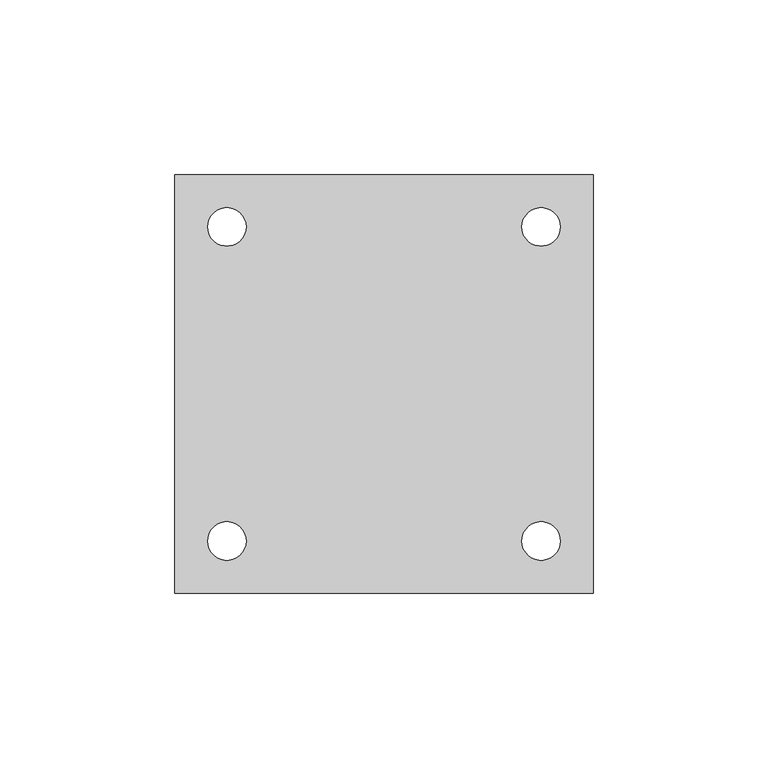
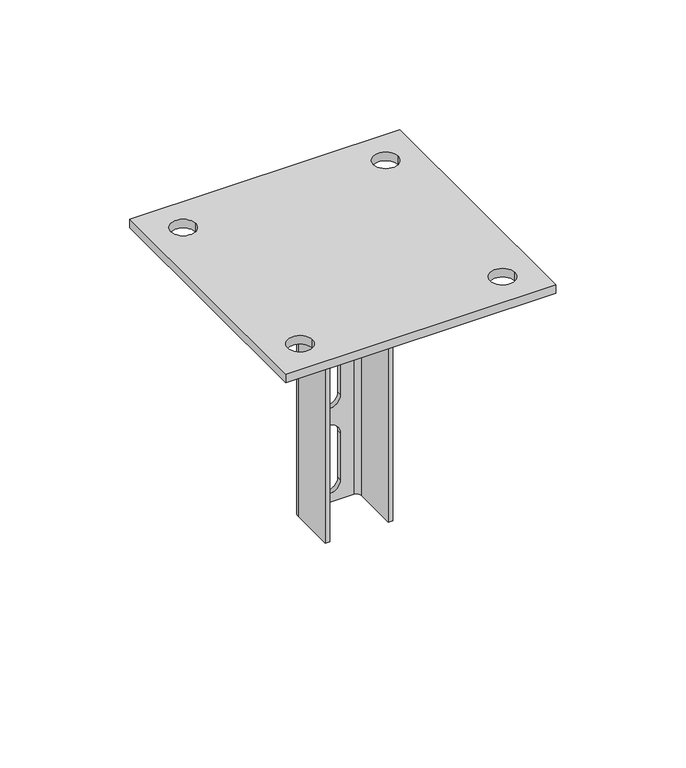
"""IFC4 building model written with IfcOpenShell, lengths in millimetres: proxy geometry, КМ Профиль_Основание потолочной стойки OUPT : OUPT."""

from ifc_helpers import new_model, si_unit, point, frame, frame_2d, origin, place, context, project, spatial, polyline, circle_curve, trimmed, segment, composite_curve, outline, extrude, source, transform, mapped, element, save
from ifc_brep_helpers import plane_surface, cylinder_surface, revolved_surface, advanced_brep


def generic_models_736fe222(model_context):
    return source(origin(), model_context, "Body", "SolidModel", [
        advanced_brep(
        [(15.0, -12.5, -4.0), (15.0, 8.5, -4.0), (11.0, 12.5, -4.0), (-11.0, 12.5, -4.0), (-15.0, 8.5, -4.0), (-15.0, -12.5, -4.0), (-13.0, -12.5, -4.0), (-13.0, 8.5, -4.0), (-11.0, 10.5, -4.0), (11.0, 10.5, -4.0), (13.0, 8.5, -4.0), (13.0, -12.5, -4.0), (15.0, 8.5, -124.0), (15.0, -12.5, -124.0), (13.0, -12.5, -124.0), (13.0, 8.5, -124.0), (11.0, 10.5, -124.0), (-11.0, 10.5, -124.0), (-13.0, 8.5, -124.0), (-13.0, -12.5, -124.0), (-15.0, -12.5, -124.0), (-15.0, 8.5, -124.0), (-11.0, 12.5, -124.0), (11.0, 12.5, -124.0), (-5.0, 12.5, -53.0), (-5.0, 12.5, -75.0), (5.0, 12.5, -75.0), (5.0, 12.5, -53.0), (-5.0, 12.5, -93.0), (-5.0, 12.5, -115.0), (5.0, 12.5, -115.0), (5.0, 12.5, -93.0), (-5.0, 12.5, -13.0), (-5.0, 12.5, -35.0), (5.0, 12.5, -35.0), (5.0, 12.5, -13.0), (-5.0, 10.5, -75.0), (-5.0, 10.5, -53.0), (5.0, 10.5, -53.0), (5.0, 10.5, -75.0), (-5.0, 10.5, -115.0), (-5.0, 10.5, -93.0), (5.0, 10.5, -93.0), (5.0, 10.5, -115.0), (-5.0, 10.5, -35.0), (-5.0, 10.5, -13.0), (5.0, 10.5, -13.0), (5.0, 10.5, -35.0)],
        [
            (0, 1),
            (1, 2, circle_curve(frame((11.0, 8.5, -4.0), z_axis=(0.0, 0.0, 1.0), x_axis=(1.0, 0.0, 0.0)), 4.0)),
            (2, 3),
            (3, 4, circle_curve(frame((-11.0, 8.5, -4.0), z_axis=(0.0, 0.0, 1.0), x_axis=(1.0, 0.0, 0.0)), 4.0)),
            (4, 5),
            (5, 6),
            (6, 7),
            (7, 8, circle_curve(frame((-11.0, 8.5, -4.0), z_axis=(0.0, 0.0, -1.0), x_axis=(1.0, 0.0, 0.0)), 2.0)),
            (8, 9),
            (9, 10, circle_curve(frame((11.0, 8.5, -4.0), z_axis=(0.0, 0.0, -1.0), x_axis=(1.0, 0.0, 0.0)), 2.0)),
            (10, 11),
            (11, 0),
            (12, 13),
            (13, 14),
            (14, 15),
            (15, 16, circle_curve(frame((11.0, 8.5, -124.0), z_axis=(0.0, 0.0, 1.0), x_axis=(1.0, 0.0, 0.0)), 2.0)),
            (16, 17),
            (17, 18, circle_curve(frame((-11.0, 8.5, -124.0), z_axis=(0.0, 0.0, 1.0), x_axis=(1.0, 0.0, 0.0)), 2.0)),
            (18, 19),
            (19, 20),
            (20, 21),
            (21, 22, circle_curve(frame((-11.0, 8.5, -124.0), z_axis=(0.0, 0.0, -1.0), x_axis=(1.0, 0.0, 0.0)), 4.0)),
            (22, 23),
            (23, 12, circle_curve(frame((11.0, 8.5, -124.0), z_axis=(0.0, 0.0, -1.0), x_axis=(1.0, 0.0, 0.0)), 4.0)),
            (0, 13),
            (12, 1),
            (23, 2),
            (22, 3),
            (24, 25),
            (25, 26, circle_curve(frame((0.0, 12.5, -75.0), z_axis=(0.0, -1.0, 0.0), x_axis=(0.0, 0.0, -1.0)), 5.0)),
            (26, 27),
            (27, 24, circle_curve(frame((0.0, 12.5, -53.0), z_axis=(0.0, -1.0, 0.0), x_axis=(0.0, 0.0, -1.0)), 5.0)),
            (28, 29),
            (29, 30, circle_curve(frame((0.0, 12.5, -115.0), z_axis=(0.0, -1.0, 0.0), x_axis=(0.0, 0.0, -1.0)), 5.0)),
            (30, 31),
            (31, 28, circle_curve(frame((0.0, 12.5, -93.0), z_axis=(0.0, -1.0, 0.0), x_axis=(0.0, 0.0, -1.0)), 5.0)),
            (32, 33),
            (33, 34, circle_curve(frame((0.0, 12.5, -35.0), z_axis=(0.0, -1.0, 0.0), x_axis=(0.0, 0.0, -1.0)), 5.0)),
            (34, 35),
            (35, 32, circle_curve(frame((0.0, 12.5, -13.0), z_axis=(0.0, -1.0, 0.0), x_axis=(0.0, 0.0, -1.0)), 5.0)),
            (21, 4),
            (20, 5),
            (19, 6),
            (18, 7),
            (17, 8),
            (16, 9),
            (36, 37),
            (37, 38, circle_curve(frame((0.0, 10.5, -53.0), z_axis=(0.0, 1.0, 0.0), x_axis=(0.0, 0.0, -1.0)), 5.0)),
            (38, 39),
            (39, 36, circle_curve(frame((0.0, 10.5, -75.0), z_axis=(0.0, 1.0, 0.0), x_axis=(0.0, 0.0, -1.0)), 5.0)),
            (40, 41),
            (41, 42, circle_curve(frame((0.0, 10.5, -93.0), z_axis=(0.0, 1.0, 0.0), x_axis=(0.0, 0.0, -1.0)), 5.0)),
            (42, 43),
            (43, 40, circle_curve(frame((0.0, 10.5, -115.0), z_axis=(0.0, 1.0, 0.0), x_axis=(0.0, 0.0, -1.0)), 5.0)),
            (44, 45),
            (45, 46, circle_curve(frame((0.0, 10.5, -13.0), z_axis=(0.0, 1.0, 0.0), x_axis=(0.0, 0.0, -1.0)), 5.0)),
            (46, 47),
            (47, 44, circle_curve(frame((0.0, 10.5, -35.0), z_axis=(0.0, 1.0, 0.0), x_axis=(0.0, 0.0, -1.0)), 5.0)),
            (15, 10),
            (14, 11),
            (24, 37),
            (36, 25),
            (27, 38),
            (26, 39),
            (28, 41),
            (40, 29),
            (31, 42),
            (30, 43),
            (32, 45),
            (44, 33),
            (35, 46),
            (34, 47),
        ],
        [
            plane_surface(frame((15.0, 8.5, -4.0), z_axis=(0.0, 0.0, 1.0), x_axis=(0.0, 1.0, 0.0))),
            plane_surface(frame((15.0, 8.5, -124.0), z_axis=(0.0, 0.0, -1.0), x_axis=(0.0, -1.0, 0.0))),
            plane_surface(frame((15.0, -12.5, -4.0), z_axis=(1.0, 0.0, 0.0), x_axis=(0.0, 0.0, -1.0))),
            cylinder_surface(frame((11.0, 8.5, -124.0), z_axis=(0.0, 0.0, 1.0), x_axis=(1.0, 0.0, 0.0)), 4.0),
            plane_surface(frame((11.0, 12.5, -4.0), z_axis=(0.0, 1.0, 0.0), x_axis=(0.0, 0.0, -1.0))),
            cylinder_surface(frame((-11.0, 8.5, -124.0), z_axis=(0.0, 0.0, 1.0), x_axis=(1.0, 0.0, 0.0)), 4.0),
            plane_surface(frame((-15.0, 8.5, -4.0), z_axis=(-1.0, 0.0, 0.0), x_axis=(0.0, 0.0, -1.0))),
            plane_surface(frame((-15.0, -12.5, -4.0), z_axis=(0.0, -1.0, 0.0), x_axis=(0.0, 0.0, -1.0))),
            plane_surface(frame((-13.0, -12.5, -4.0), z_axis=(1.0, 0.0, 0.0), x_axis=(0.0, 0.0, -1.0))),
            revolved_surface(polyline([(-9.0, 8.5, -124.0), (-9.0, 8.5, -4.0)]), (-11.0, 8.5, -124.0), (0.0, 0.0, -1.0)),
            plane_surface(frame((-11.0, 10.5, -4.0), z_axis=(0.0, -1.0, 0.0), x_axis=(0.0, 0.0, -1.0))),
            revolved_surface(polyline([(13.0, 8.5, -124.0), (13.0, 8.5, -4.0)]), (11.0, 8.5, -124.0), (0.0, 0.0, -1.0)),
            plane_surface(frame((13.0, 8.5, -4.0), z_axis=(-1.0, 0.0, 0.0), x_axis=(0.0, 0.0, -1.0))),
            plane_surface(frame((13.0, -12.5, -4.0), z_axis=(0.0, -1.0, 0.0), x_axis=(0.0, 0.0, -1.0))),
            plane_surface(frame((-5.0, 12.5, -75.0), z_axis=(1.0, 0.0, 0.0), x_axis=(0.0, -1.0, 0.0))),
            revolved_surface(polyline([(0.0, 12.5, -58.0), (0.0, 10.5, -58.0)]), (0.0, 10.5, -53.0), (0.0, 1.0, 0.0)),
            plane_surface(frame((5.0, 12.5, -53.0), z_axis=(-1.0, 0.0, 0.0), x_axis=(0.0, -1.0, 0.0))),
            revolved_surface(polyline([(0.0, 12.5, -80.0), (0.0, 10.5, -80.0)]), (0.0, 10.5, -75.0), (0.0, 1.0, 0.0)),
            plane_surface(frame((-5.0, 12.5, -115.0), z_axis=(1.0, 0.0, 0.0), x_axis=(0.0, -1.0, 0.0))),
            revolved_surface(polyline([(0.0, 12.5, -98.0), (0.0, 10.5, -98.0)]), (0.0, 10.5, -93.0), (0.0, 1.0, 0.0)),
            plane_surface(frame((5.0, 12.5, -93.0), z_axis=(-1.0, 0.0, 0.0), x_axis=(0.0, -1.0, 0.0))),
            revolved_surface(polyline([(0.0, 12.5, -120.0), (0.0, 10.5, -120.0)]), (0.0, 10.5, -115.0), (0.0, 1.0, 0.0)),
            plane_surface(frame((-5.0, 12.5, -35.0), z_axis=(1.0, 0.0, 0.0), x_axis=(0.0, -1.0, 0.0))),
            revolved_surface(polyline([(0.0, 12.5, -18.0), (0.0, 10.5, -18.0)]), (0.0, 10.5, -13.0), (0.0, 1.0, 0.0)),
            plane_surface(frame((5.0, 12.5, -13.0), z_axis=(-1.0, 0.0, 0.0), x_axis=(0.0, -1.0, 0.0))),
            revolved_surface(polyline([(0.0, 12.5, -40.0), (0.0, 10.5, -40.0)]), (0.0, 10.5, -35.0), (0.0, 1.0, 0.0)),
        ],
        [
            (0, [[1, 2, 3, 4, 5, 6, 7, 8, 9, 10, 11, 12]]),
            (1, [[13, 14, 15, 16, 17, 18, 19, 20, 21, 22, 23, 24]]),
            (2, [[-1, 25, -13, 26]]),
            (3, [[-2, -26, -24, 27]]),
            (4, [[-3, -27, -23, 28], [29, 30, 31, 32], [33, 34, 35, 36], [37, 38, 39, 40]]),
            (5, [[-4, -28, -22, 41]]),
            (6, [[-5, -41, -21, 42]]),
            (7, [[-6, -42, -20, 43]]),
            (8, [[-7, -43, -19, 44]]),
            (9, [[-8, -44, -18, 45]]),
            (10, [[-9, -45, -17, 46], [47, 48, 49, 50], [51, 52, 53, 54], [55, 56, 57, 58]]),
            (11, [[-10, -46, -16, 59]]),
            (12, [[-11, -59, -15, 60]]),
            (13, [[-12, -60, -14, -25]]),
            (14, [[61, -47, 62, -29]]),
            (15, [[-61, -32, 63, -48]]),
            (16, [[-63, -31, 64, -49]]),
            (17, [[-62, -50, -64, -30]]),
            (18, [[65, -51, 66, -33]]),
            (19, [[-65, -36, 67, -52]]),
            (20, [[-67, -35, 68, -53]]),
            (21, [[-66, -54, -68, -34]]),
            (22, [[69, -55, 70, -37]]),
            (23, [[-69, -40, 71, -56]]),
            (24, [[-71, -39, 72, -57]]),
            (25, [[-70, -58, -72, -38]]),
        ],
    ),
        extrude(outline(polyline([(-60.0, 60.0), (60.0, 60.0), (60.0, -60.0), (-60.0, -60.0), (-60.0, 60.0)]), holes=[composite_curve([segment(trimmed(circle_curve(frame_2d((-45.0, 45.0)), 5.5), [point((-50.5, 45.0))], [point((-39.5, 45.0))], True, "CARTESIAN"), True, "CONTINUOUS"), segment(trimmed(circle_curve(frame_2d((-45.0, 45.0)), 5.5), [point((-39.5, 45.0))], [point((-50.5, 45.0))], True, "CARTESIAN"), True, "CONTINUOUS")], self_intersect=False), composite_curve([segment(trimmed(circle_curve(frame_2d((45.0, 45.0)), 5.5), [point((39.5, 45.0))], [point((50.5, 45.0))], True, "CARTESIAN"), True, "CONTINUOUS"), segment(trimmed(circle_curve(frame_2d((45.0, 45.0)), 5.5), [point((50.5, 45.0))], [point((39.5, 45.0))], True, "CARTESIAN"), True, "CONTINUOUS")], self_intersect=False), composite_curve([segment(trimmed(circle_curve(frame_2d((45.0, -45.0)), 5.5), [point((39.5, -45.0))], [point((50.5, -45.0))], True, "CARTESIAN"), True, "CONTINUOUS"), segment(trimmed(circle_curve(frame_2d((45.0, -45.0)), 5.5), [point((50.5, -45.0))], [point((39.5, -45.0))], True, "CARTESIAN"), True, "CONTINUOUS")], self_intersect=False), composite_curve([segment(trimmed(circle_curve(frame_2d((-45.0, -45.0)), 5.5), [point((-50.5, -45.0))], [point((-39.5, -45.0))], True, "CARTESIAN"), True, "CONTINUOUS"), segment(trimmed(circle_curve(frame_2d((-45.0, -45.0)), 5.5), [point((-39.5, -45.0))], [point((-50.5, -45.0))], True, "CARTESIAN"), True, "CONTINUOUS")], self_intersect=False)]), frame((0.0, 0.0, -4.0), z_axis=(0.0, 0.0, 1.0), x_axis=(1.0, 0.0, 0.0)), (0.0, 0.0, 1.0), 4.0),
    ])


if __name__ == "__main__":
    model = new_model("IFC4")
    model_context = context("Model", 3, world=origin())
    ifc_project = project(units=[si_unit("LENGTHUNIT", "METRE", prefix="MILLI")], contexts=[model_context])
    site = spatial("IfcSite", under=ifc_project)
    building = spatial("IfcBuilding", under=site)
    placement = place(None, origin())
    generic_models_shape = generic_models_736fe222(model_context)
    element("IfcBuildingElementProxy", 1, Name="КМ Профиль_Основание потолочной стойки OUPT : OUPT", ObjectType="КМ Профиль_Основание потолочной стойки OUPT : OUPT", at=placement, inside=building, context=model_context, shape_type="MappedRepresentation", body=[
        mapped(generic_models_shape, transform((0.0, 0.0, 0.0), x_axis=(1.0, 0.0, 0.0), y_axis=(0.0, 1.0, 0.0), z_axis=(0.0, 0.0, 1.0))),
    ])
    save(model, "model.ifc")
